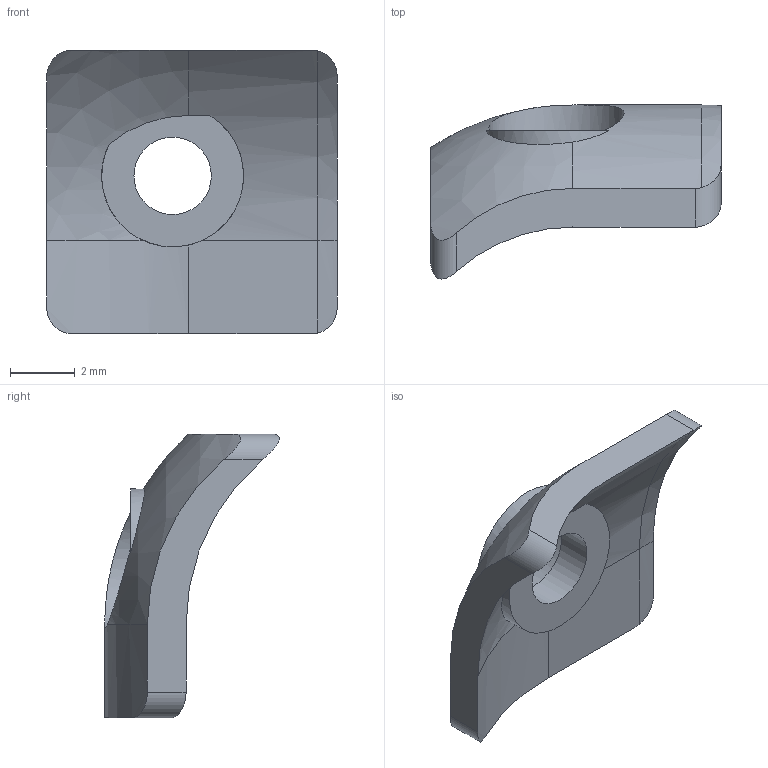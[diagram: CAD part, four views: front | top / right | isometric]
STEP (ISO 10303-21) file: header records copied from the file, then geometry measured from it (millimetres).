
FILE_DESCRIPTION(('Open CASCADE Model'),'2;1');
FILE_NAME('Open CASCADE Shape Model','2026-10-20T15:14:23',('Author'),( 'Open CASCADE'),'Open CASCADE STEP processor 7.8','Open CASCADE 7.8' ,'Unknown');
FILE_SCHEMA(('AUTOMOTIVE_DESIGN { 1 0 10303 214 1 1 1 1 }'));
Length unit declared in the file: millimetre
Products named in the file (1): Open CASCADE STEP translator 7.8 20
Bounding box: 9 x 5.41 x 8.8 mm (x, y, z)
Volume: 88.8 mm3; surface area: 231.8 mm2
Topology: 1 solids, 1 shells, 27 faces, 75 edges, 48 vertices
Faces by surface type: cylinder 14, plane 9, sphere 4
Full cylindrical faces by diameter (mm): 2.4 x1, 4.2 x1
Entity records: 2998 total; most frequent: CARTESIAN_POINT 1655, DIRECTION 213, ORIENTED_EDGE 146, PCURVE 146, DEFINITIONAL_REPRESENTATION 146, B_SPLINE_CURVE_WITH_KNOTS 88, LINE 81, VECTOR 81
